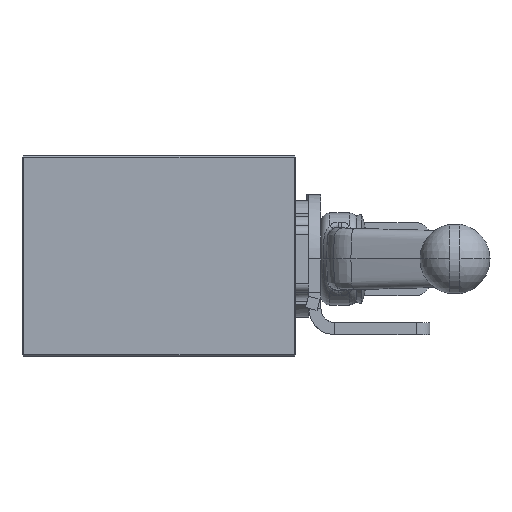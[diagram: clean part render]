
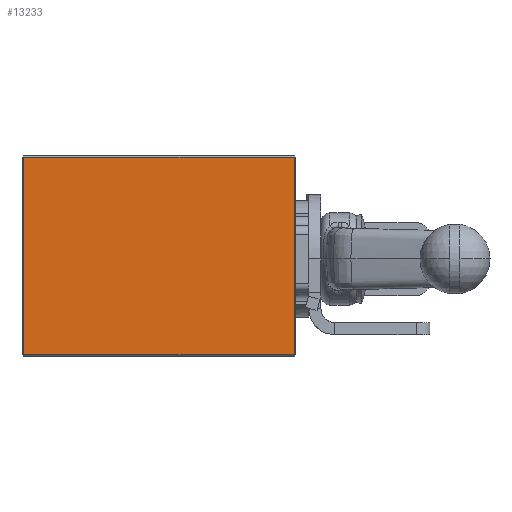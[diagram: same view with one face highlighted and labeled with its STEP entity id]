
A CAD part, front view. The second image highlights one B-rep face of the part: STEP entity #13233.
In plain terms, the highlighted planar face has unit normal (0, -1, 0).
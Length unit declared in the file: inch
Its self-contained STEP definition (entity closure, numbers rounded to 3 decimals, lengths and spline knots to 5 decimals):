
#232 = PLANE ( 'NONE',  #45004 ) ;
#856 = EDGE_CURVE ( 'NONE', #36511, #39923, #24488, .T. ) ;
#1897 = ORIENTED_EDGE ( 'NONE', *, *, #12395, .T. ) ;
#4569 = DIRECTION ( 'NONE',  ( 0., 1., 0. ) ) ;
#4931 = VECTOR ( 'NONE', #7381, 39.37008 ) ;
#5155 = LINE ( 'NONE', #38087, #43978 ) ;
#6798 = CARTESIAN_POINT ( 'NONE',  ( -0.24694, -0.05331, 3.9376 ) ) ;
#7316 = VECTOR ( 'NONE', #16939, 39.37008 ) ;
#7381 = DIRECTION ( 'NONE',  ( 0., 0., -1. ) ) ;
#10286 = CARTESIAN_POINT ( 'NONE',  ( -0.24694, -0.05331, 1.2276 ) ) ;
#12395 = EDGE_CURVE ( 'NONE', #33841, #18223, #5155, .T. ) ;
#13233 = ADVANCED_FACE ( 'NONE', ( #57625 ), #232, .F. ) ;
#13433 = EDGE_CURVE ( 'NONE', #39923, #33841, #40853, .T. ) ;
#15103 = CARTESIAN_POINT ( 'NONE',  ( -0.26694, -0.05331, 3.9576 ) ) ;
#15115 = ORIENTED_EDGE ( 'NONE', *, *, #13433, .T. ) ;
#15193 = EDGE_LOOP ( 'NONE', ( #1897, #57053, #26829, #15115 ) ) ;
#15496 = CARTESIAN_POINT ( 'NONE',  ( -0.24694, -0.05331, 3.9576 ) ) ;
#16939 = DIRECTION ( 'NONE',  ( 1., 0., 0. ) ) ;
#17560 = CARTESIAN_POINT ( 'NONE',  ( 3.48306, -0.05331, 1.2276 ) ) ;
#18223 = VERTEX_POINT ( 'NONE', #31623 ) ;
#23642 = EDGE_CURVE ( 'NONE', #18223, #36511, #33748, .T. ) ;
#23804 = DIRECTION ( 'NONE',  ( 0., 0., 1. ) ) ;
#24228 = VECTOR ( 'NONE', #52980, 39.37008 ) ;
#24488 = LINE ( 'NONE', #15496, #4931 ) ;
#26829 = ORIENTED_EDGE ( 'NONE', *, *, #856, .T. ) ;
#31623 = CARTESIAN_POINT ( 'NONE',  ( 3.46306, -0.05331, 3.9376 ) ) ;
#33748 = LINE ( 'NONE', #34050, #24228 ) ;
#33841 = VERTEX_POINT ( 'NONE', #55778 ) ;
#34050 = CARTESIAN_POINT ( 'NONE',  ( -0.26694, -0.05331, 3.9376 ) ) ;
#36511 = VERTEX_POINT ( 'NONE', #6798 ) ;
#38087 = CARTESIAN_POINT ( 'NONE',  ( 3.46306, -0.05331, 3.9576 ) ) ;
#39923 = VERTEX_POINT ( 'NONE', #10286 ) ;
#40853 = LINE ( 'NONE', #17560, #7316 ) ;
#43978 = VECTOR ( 'NONE', #47087, 39.37008 ) ;
#45004 = AXIS2_PLACEMENT_3D ( 'NONE', #15103, #4569, #23804 ) ;
#47087 = DIRECTION ( 'NONE',  ( 0., 0., 1. ) ) ;
#52980 = DIRECTION ( 'NONE',  ( -1., 0., 0. ) ) ;
#55778 = CARTESIAN_POINT ( 'NONE',  ( 3.46306, -0.05331, 1.2276 ) ) ;
#57053 = ORIENTED_EDGE ( 'NONE', *, *, #23642, .T. ) ;
#57625 = FACE_OUTER_BOUND ( 'NONE', #15193, .T. ) ;
